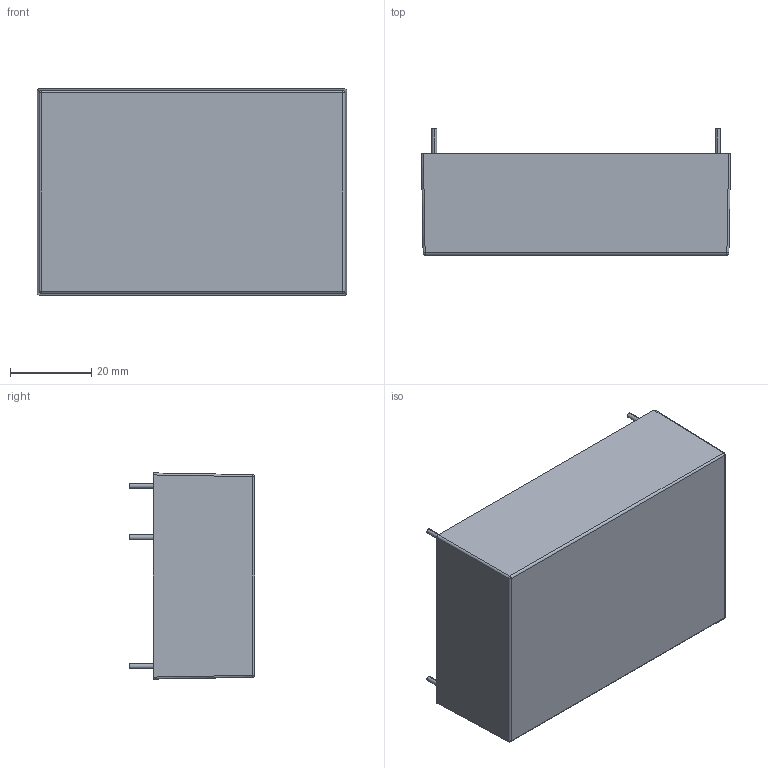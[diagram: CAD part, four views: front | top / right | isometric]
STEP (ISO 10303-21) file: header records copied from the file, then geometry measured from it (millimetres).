
FILE_DESCRIPTION (( 'STEP AP214' ), '1' );
FILE_NAME ('DH15W10-XXP¦¨«~¹Ï-1120906.STEP', '2023-09-06T03:18:09', ( 'cincon' ), ( '' ), 'SwSTEP 2.0', 'SolidWorks 2020', '' );
FILE_SCHEMA (( 'AUTOMOTIVE_DESIGN' ));
Length unit declared in the file: millimetre
Products named in the file (1): DH15W10-XXP成品圖-1120906
Bounding box: 76.2 x 31 x 50.8 mm (x, y, z)
Volume: 19479.2 mm3; surface area: 34297.9 mm2
Topology: 1 solids, 1 shells, 277 faces, 718 edges, 468 vertices
Faces by surface type: plane 193, cylinder 38, bspline 32, cone 10, sphere 4
Entity records: 13977 total; most frequent: CARTESIAN_POINT 4256, ORIENTED_EDGE 1428, DIRECTION 1230, EDGE_CURVE 714, VECTOR 554, LINE 554, VERTEX_POINT 468, AXIS2_PLACEMENT_3D 338
